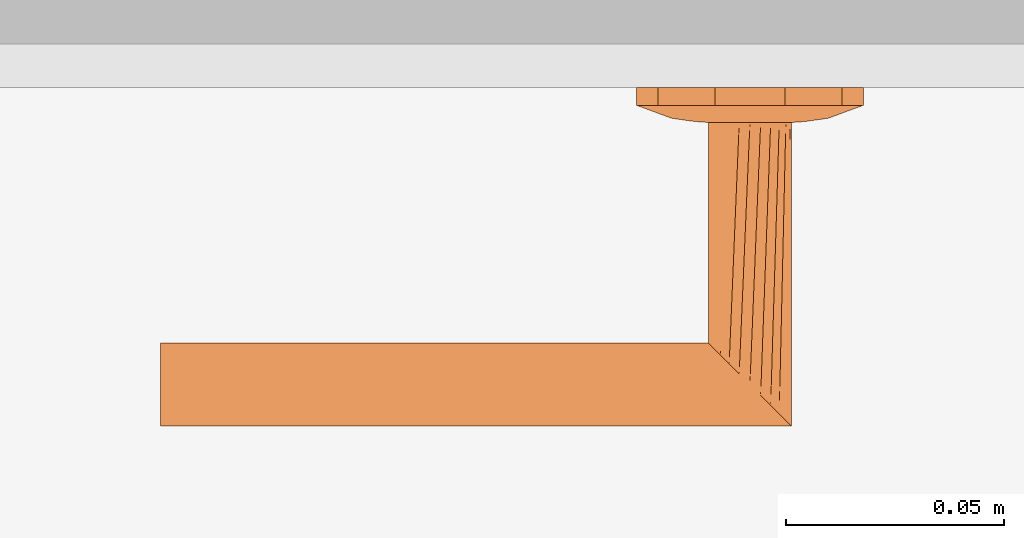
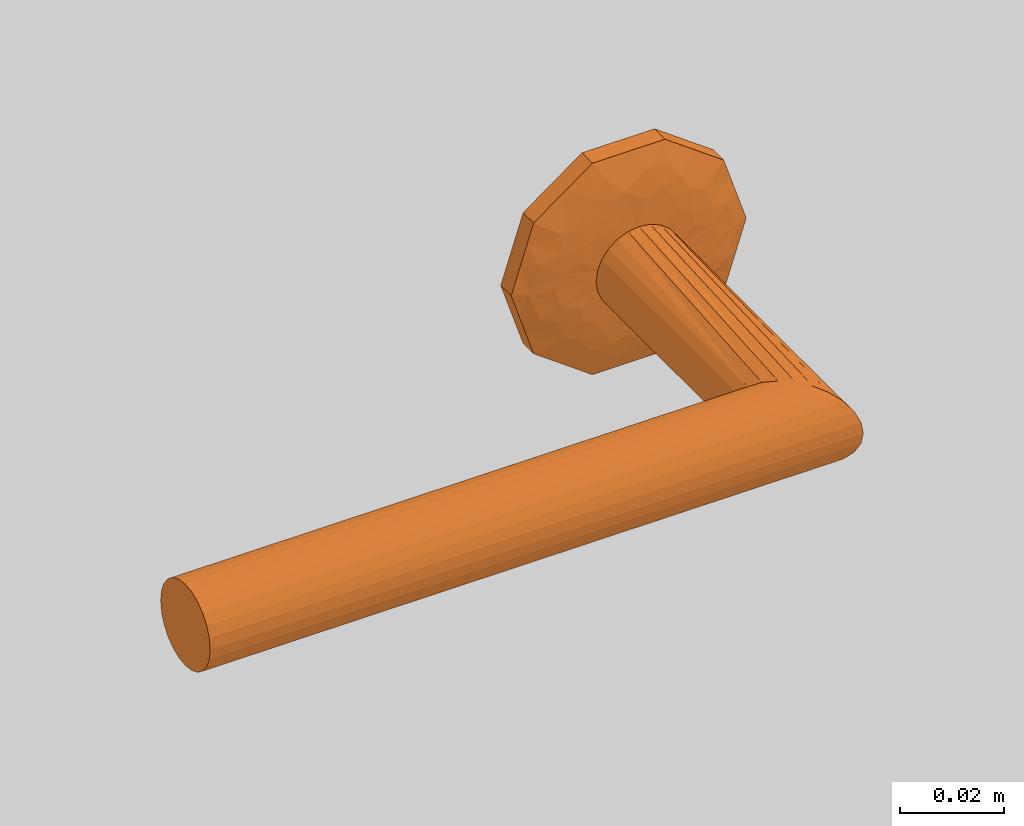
# One storey, part 120 of 125: 1 proxy.
"""IFC2X3 building model written with IfcOpenShell, lengths in millimetres."""

from ifc_helpers import new_model, entity, si_unit, converted_unit, direction, frame, origin, place, context, subcontext, project, spatial, faceted_brep, source, transform, mapped, material, type_object, type_shapes, element, save


model = new_model("IFC2X3")

# Units and contexts
model_context = context("Model", 3, precision=0.01, world=origin(), true_north=direction((6.123233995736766e-17, 1.0)))
plan_context = context("Plan", 3, precision=0.01, world=origin(), true_north=direction((6.123233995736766e-17, 1.0)))
body_context = subcontext(model_context, "Body", "Model", "MODEL_VIEW")
ifc_project = project(units=[si_unit("LENGTHUNIT", "METRE", prefix="MILLI"), converted_unit("PLANEANGLEUNIT", "DEGREE", entity("IfcPlaneAngleMeasure", 0.017453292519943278), si_unit("PLANEANGLEUNIT", "RADIAN"), dimensions=[0, 0, 0, 0, 0, 0, 0]), si_unit("AREAUNIT", "SQUARE_METRE")], contexts=[model_context, plan_context])

# Site, building, storey, space
site_placement = place(None, origin())
site = spatial("IfcSite", under=ifc_project, at=site_placement, Name="Default", CompositionType="ELEMENT")
building_placement = place(site_placement, origin())
building = spatial("IfcBuilding", under=site, at=building_placement, CompositionType="ELEMENT")
storey_placement = place(building_placement, frame((0.0, 0.0, 3125.0)))
storey = spatial("IfcBuildingStorey", under=building, at=storey_placement, Name="2K", CompositionType="ELEMENT", Elevation=3125.0)
space_placement = place(storey_placement, origin())
space = spatial("IfcSpace", under=storey, at=space_placement, Name="2-4.3", CompositionType="ELEMENT", InteriorOrExteriorSpace="INTERNAL")

# Proxy
ifc_material = material(Name="<Unnamed>")
building_element_proxy_type = type_object("IfcBuildingElementProxyType", Name="Door-handle_Lever_ABLOY_INOXI_3-19ss-002_RT:Default", PredefinedType="NOTDEFINED", material=ifc_material)
shared_shape = source(origin(), body_context, "Body", "Brep", [
    faceted_brep([(0.0, 0.0, 0.0), (21.034441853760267, -15.282416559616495, 0.0), (14.534441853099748, -20.00494299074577, 0.0), (8.034441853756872, -24.72746942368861, 0.0), (0.0, -24.72746942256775, 0.0), (23.51722092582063, -7.6412082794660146, 0.0), (26.0, 0.0, 0.0), (-8.034441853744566, -24.727469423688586, 0.0), (-14.534441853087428, -20.00494299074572, 0.0), (-21.03444185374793, -15.282416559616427, 0.0), (-23.517220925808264, -7.641208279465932, 0.0), (-26.0, 0.0, 0.0), (-23.517220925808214, 7.641208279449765, 0.0), (23.517220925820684, 7.641208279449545, 0.0), (21.034441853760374, 15.282416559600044, 0.0), (14.53444185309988, 20.00494299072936, 0.0), (8.034441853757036, 24.72746942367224, 0.0), (-21.034441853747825, 15.282416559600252, 0.0), (-14.53444185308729, 20.004942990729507, 0.0), (-8.0344418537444, 24.72746942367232, 0.0), (0.0, 24.72746942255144, 0.0), (0.0, 0.0, 8.0), (4.7500000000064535, -8.227241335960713, 8.0), (5.937500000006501, -6.170431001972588, 8.0), (7.125000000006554, -4.113620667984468, 8.0), (8.312500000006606, -2.0568103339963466, 8.0), (9.500000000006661, 0.0, 8.0), (8.312500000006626, 2.056810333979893, 8.0), (2.3750000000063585, -8.227241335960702, 8.0), (0.0, -8.227241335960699, 8.0), (-2.3749999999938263, -8.227241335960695, 8.0), (-4.749999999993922, -8.227241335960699, 8.0), (-5.937499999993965, -6.170431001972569, 8.0), (-7.124999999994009, -4.113620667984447, 8.0), (-8.312499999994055, -2.056810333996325, 8.0), (-9.499999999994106, 0.0, 8.0), (7.125000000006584, 4.113620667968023, 8.0), (5.937500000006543, 6.170431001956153, 8.0), (4.750000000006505, 8.227241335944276, 8.0), (2.3750000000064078, 8.22724133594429, 8.0), (-8.31249999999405, 2.0568103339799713, 8.0), (-7.12499999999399, 4.113620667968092, 8.0), (-5.9374999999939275, 6.170431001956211, 8.0), (-4.74999999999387, 8.227241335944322, 8.0), (0.0, 8.227241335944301, 8.0), (-2.374999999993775, 8.227241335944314, 8.0), (-22.488765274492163, -10.806469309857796, 4.030771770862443), (-16.663919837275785, -7.932665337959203, 6.877259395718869), (-20.643071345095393, -6.292822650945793, 5.929480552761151), (-12.50457926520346, -5.179566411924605, 7.774932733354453), (-16.764060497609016, -3.820257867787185, 7.1747985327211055), (-9.071726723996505, -10.311606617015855, 7.7520782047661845), (-11.963426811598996, -8.625290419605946, 7.618343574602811), (-11.979136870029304, -13.678312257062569, 6.945778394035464), (5.7585542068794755, -20.96753300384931, 5.871476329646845), (0.0, -24.72746942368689, 4.030771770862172), (8.03444185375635, -24.727469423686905, 4.030771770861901), (16.66391982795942, -7.932665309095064, 6.877259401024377), (22.488765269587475, -10.806469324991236, 4.03077177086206), (20.64307133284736, -6.29282258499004, 5.929480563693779), (14.534441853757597, -20.004942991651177, 4.030771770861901), (9.499431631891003, -18.64368355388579, 6.154325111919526), (-15.783149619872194, -11.991003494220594, 6.50080018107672), (-21.034441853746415, -15.282416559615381, 4.030771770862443), (-14.53444185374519, -20.00494299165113, 4.030771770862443), (-23.012042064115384, 0.0, 5.135401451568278), (-23.943088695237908, -6.330522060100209, 4.030771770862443), (11.96342678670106, -8.62529049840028, 7.618343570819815), (12.504579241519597, -5.179566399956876, 7.774932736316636), (16.764060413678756, -3.8202578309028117, 7.17479855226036), (15.783149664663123, -11.991003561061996, 6.50080015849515), (17.985351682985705, 0.0, 6.993737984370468), (23.012042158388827, 0.0, 5.135401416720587), (8.661516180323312, -10.478936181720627, 7.768126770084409), (-8.03444185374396, -24.727469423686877, 4.030771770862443), (-3.3573143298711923, -21.197247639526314, 5.971427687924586), (-9.941915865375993, -17.061976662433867, 6.522757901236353), (-5.973257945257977, -16.430139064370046, 7.110979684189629), (-7.711266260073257, -12.760344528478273, 7.594456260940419), (11.979136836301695, -13.678312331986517, 6.945778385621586), (7.511307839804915, -13.358932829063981, 7.529187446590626), (5.953298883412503, -16.50608604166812, 7.096344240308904), (-1.5654593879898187, -15.307443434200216, 7.519134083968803), (-7.784980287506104, -20.476295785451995, 5.812837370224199), (2.8135289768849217, -17.76392260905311, 6.993737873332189), (-17.98535168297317, 0.0, 6.993737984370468), (-26.0, 0.0, 4.030771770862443), (-23.51722092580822, -7.641208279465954, 4.030771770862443), (23.943088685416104, -6.33052209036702, 4.030771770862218), (24.308823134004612, -5.204907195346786, 4.030771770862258), (26.0, 0.0, 4.030771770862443), (21.03444185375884, -15.282416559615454, 4.030771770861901), (22.617646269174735, -10.40981439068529, 4.030771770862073), (22.488765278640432, 10.806469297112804, 4.030771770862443), (16.66391984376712, 7.932665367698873, 6.877259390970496), (20.643071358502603, 6.292822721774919, 5.929480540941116), (12.504579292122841, 5.179566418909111, 7.774932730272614), (16.764060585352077, 3.8202579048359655, 7.174798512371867), (9.07172672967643, 10.31160659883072, 7.752078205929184), (11.963426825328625, 8.62529034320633, 7.618343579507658), (11.979136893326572, 13.67831220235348, 6.9457784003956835), (-5.758554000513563, 20.96753314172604, 5.8714763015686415), (0.0, 24.72746942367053, 4.030771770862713), (-8.03444185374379, 24.72746942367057, 4.030771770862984), (-16.663919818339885, 7.932665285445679, 6.877259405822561), (-22.48876526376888, 10.806469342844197, 4.030771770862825), (-20.643071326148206, 6.2928225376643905, 5.929480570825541), (-14.534441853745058, 20.004942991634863, 4.030771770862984), (-9.499431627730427, 18.643683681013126, 6.154325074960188), (15.783149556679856, 11.991003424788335, 6.5008002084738), (21.03444185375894, 15.282416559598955, 4.030771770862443), (14.534441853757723, 20.004942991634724, 4.030771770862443), (23.943088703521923, 6.330522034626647, 4.030771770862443), (-11.96342675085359, 8.625290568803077, 7.618343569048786), (-12.504579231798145, 5.179566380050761, 7.77493273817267), (-16.764060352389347, 3.820257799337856, 7.174798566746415), (-15.78314967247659, 11.991003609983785, 6.500800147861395), (-8.661516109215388, 10.478936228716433, 7.768126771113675), (8.034441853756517, 24.727469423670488, 4.030771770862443), (3.3573144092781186, 21.197247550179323, 5.971427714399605), (9.941915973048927, 17.061976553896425, 6.522757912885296), (5.9732581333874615, 16.430139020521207, 7.110979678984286), (7.711266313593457, 12.760344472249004, 7.5944562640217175), (-11.979136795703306, 13.678312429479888, 6.945778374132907), (-7.511307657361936, 13.358932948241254, 7.5291874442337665), (-5.9532988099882, 16.50608628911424, 7.096344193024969), (1.5654596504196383, 15.3074431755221, 7.519134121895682), (7.784980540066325, 20.476295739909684, 5.812837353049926), (-2.81352881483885, 17.76392263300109, 6.993737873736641), (23.51722092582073, 7.6412082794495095, 4.030771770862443), (-23.94308867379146, 6.330522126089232, 4.030771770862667), (-24.308823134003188, 5.20490719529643, 4.030771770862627), (-21.034441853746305, 15.282416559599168, 4.030771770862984), (-22.617646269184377, 10.409814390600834, 4.0307717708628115)], [[[0, 1, 2]], [[0, 2, 3]], [[0, 3, 4]], [[0, 5, 1]], [[0, 6, 5]], [[0, 4, 7]], [[0, 7, 8]], [[0, 8, 9]], [[0, 9, 10]], [[0, 10, 11]], [[0, 11, 12]], [[0, 13, 6]], [[0, 14, 13]], [[0, 15, 14]], [[0, 16, 15]], [[0, 12, 17]], [[0, 17, 18]], [[0, 18, 19]], [[0, 19, 20]], [[0, 20, 16]], [[21, 22, 23]], [[21, 23, 24]], [[21, 24, 25]], [[21, 25, 26]], [[21, 26, 27]], [[21, 28, 22]], [[21, 29, 28]], [[21, 30, 29]], [[21, 31, 30]], [[21, 32, 31]], [[21, 33, 32]], [[21, 34, 33]], [[21, 35, 34]], [[21, 27, 36]], [[21, 36, 37]], [[21, 37, 38]], [[21, 38, 39]], [[21, 40, 35]], [[21, 41, 40]], [[21, 42, 41]], [[21, 43, 42]], [[21, 39, 44]], [[21, 44, 45]], [[21, 45, 43]], [[46, 47, 48]], [[47, 49, 50]], [[49, 33, 34]], [[51, 52, 53]], [[49, 52, 33]], [[48, 47, 50]], [[54, 55, 56]], [[57, 58, 59]], [[56, 60, 61]], [[62, 63, 64]], [[65, 66, 48]], [[67, 57, 68]], [[68, 69, 25]], [[57, 67, 70]], [[69, 26, 25]], [[62, 53, 52]], [[71, 69, 72]], [[67, 23, 73]], [[74, 55, 75]], [[76, 77, 78]], [[79, 60, 70]], [[69, 59, 72]], [[80, 81, 61]], [[77, 30, 78]], [[82, 30, 77]], [[28, 80, 22]], [[77, 83, 75]], [[75, 82, 77]], [[55, 84, 75]], [[85, 50, 35]], [[24, 68, 25]], [[82, 84, 29]], [[84, 82, 75]], [[31, 78, 30]], [[82, 29, 30]], [[34, 35, 50]], [[52, 49, 47]], [[62, 52, 47]], [[34, 50, 49]], [[53, 78, 51]], [[32, 33, 52]], [[85, 65, 50]], [[66, 65, 86]], [[67, 68, 24]], [[77, 76, 83]], [[65, 48, 50]], [[63, 62, 46]], [[48, 66, 87, 46]], [[62, 47, 46]], [[69, 68, 57]], [[80, 73, 22]], [[70, 67, 79]], [[67, 24, 23]], [[72, 88, 89, 90]], [[69, 71, 26]], [[59, 69, 57]], [[61, 60, 79]], [[62, 64, 53]], [[91, 58, 70]], [[72, 59, 88]], [[57, 70, 58]], [[59, 58, 92]], [[80, 61, 79]], [[91, 70, 60]], [[61, 81, 54]], [[73, 80, 79]], [[28, 84, 81]], [[67, 73, 79]], [[29, 84, 28]], [[22, 73, 23]], [[51, 31, 32]], [[76, 78, 53]], [[53, 64, 76]], [[83, 64, 74]], [[64, 83, 76]], [[75, 83, 74]], [[31, 51, 78]], [[52, 51, 32]], [[28, 81, 80]], [[54, 81, 84]], [[55, 54, 84]], [[61, 54, 56]], [[93, 94, 95]], [[94, 96, 97]], [[96, 36, 27]], [[98, 99, 100]], [[96, 99, 36]], [[95, 94, 97]], [[101, 102, 103]], [[104, 105, 106]], [[103, 107, 108]], [[109, 110, 111]], [[72, 112, 95]], [[113, 104, 114]], [[114, 115, 40]], [[104, 113, 116]], [[115, 35, 40]], [[109, 100, 99]], [[85, 115, 65]], [[113, 42, 117]], [[118, 102, 119]], [[120, 121, 122]], [[123, 107, 116]], [[115, 106, 65]], [[124, 125, 108]], [[121, 39, 122]], [[126, 39, 121]], [[45, 124, 43]], [[121, 127, 119]], [[119, 126, 121]], [[102, 128, 119]], [[71, 97, 26]], [[41, 114, 40]], [[126, 128, 44]], [[128, 126, 119]], [[38, 122, 39]], [[126, 44, 39]], [[27, 26, 97]], [[99, 96, 94]], [[109, 99, 94]], [[27, 97, 96]], [[100, 122, 98]], [[37, 36, 99]], [[71, 72, 97]], [[112, 72, 90]], [[113, 114, 41]], [[121, 120, 127]], [[72, 95, 97]], [[110, 109, 93]], [[95, 112, 129, 93]], [[109, 94, 93]], [[115, 114, 104]], [[124, 117, 43]], [[116, 113, 123]], [[113, 41, 42]], [[65, 130, 131, 86]], [[115, 85, 35]], [[106, 115, 104]], [[108, 107, 123]], [[109, 111, 100]], [[132, 105, 116]], [[65, 106, 130]], [[104, 116, 105]], [[106, 105, 133]], [[124, 108, 123]], [[132, 116, 107]], [[108, 125, 101]], [[117, 124, 123]], [[45, 128, 125]], [[113, 117, 123]], [[44, 128, 45]], [[43, 117, 42]], [[98, 38, 37]], [[120, 122, 100]], [[100, 111, 120]], [[127, 111, 118]], [[111, 127, 120]], [[119, 127, 118]], [[38, 98, 122]], [[99, 98, 37]], [[45, 125, 124]], [[101, 125, 128]], [[102, 101, 128]], [[108, 101, 103]], [[7, 74, 64, 63, 9, 8]], [[10, 9, 63, 46, 87, 66, 86, 11]], [[6, 90, 89, 88, 92, 1, 5]], [[1, 58, 91]], [[74, 7, 4, 3, 56, 55]], [[60, 56, 3, 2, 1, 91]], [[1, 92, 58]], [[14, 110, 93, 129, 112, 90, 6, 13]], [[111, 110, 14, 15, 16, 118]], [[11, 86, 131, 130, 133, 17, 12]], [[17, 105, 132]], [[118, 16, 20, 19, 103, 102]], [[107, 103, 19, 18, 17, 132]], [[17, 133, 105]], [[59, 92, 88]], [[106, 133, 130]]]),
    faceted_brep([(4.7499999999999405, -8.22724133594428, 8.0), (2.4587809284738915, -9.176295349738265, 8.0), (0.0, -9.499999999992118, 8.0), (-2.4587809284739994, -9.176295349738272, 8.0), (-4.7500000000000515, -8.227241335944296, 8.0), (-6.717514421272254, -6.717514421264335, 8.0), (-8.227241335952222, -4.74999999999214, 8.0), (-9.176295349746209, -2.4587809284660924, 8.0), (-9.500000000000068, 0.0, 8.0), (-9.176295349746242, 2.458780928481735, 8.0), (-8.227241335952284, 4.750000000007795, 8.0), (-6.717514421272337, 6.717514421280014, 8.0), (-4.750000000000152, 8.227241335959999, 8.0), (-2.4587809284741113, 9.176295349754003, 8.0), (0.0, 9.500000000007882, 8.0), (2.4587809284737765, 9.176295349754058, 8.0), (4.7499999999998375, 8.227241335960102, 8.0), (6.717514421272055, 6.717514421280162, 8.0), (8.22724133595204, 4.75000000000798, 8.0), (9.17629534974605, 2.458780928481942, 8.0), (9.499999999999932, 0.0, 8.0), (9.17629534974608, -2.458780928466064, 8.0), (8.227241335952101, -4.749999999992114, 8.0), (6.717514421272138, -6.7175144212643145, 8.0), (-8.227241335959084, 4.7499999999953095, 59.772758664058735), (-6.717514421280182, 6.7175144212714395, 61.282485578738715), (-9.176295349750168, 2.458780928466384, 58.82370465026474), (-4.750000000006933, 8.227241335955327, 63.25000000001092), (-2.4587809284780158, 9.176295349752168, 65.54121907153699), (-9.500000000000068, 0.0, 58.50000000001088), (0.0, 9.50000000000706, 68.0), (4.750000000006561, 8.227241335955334, 72.75000000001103), (2.4587809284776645, 9.17629534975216, 70.45878092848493), (6.717514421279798, 6.7175144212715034, 74.71751442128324), (8.22724133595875, 4.749999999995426, 76.22724133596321), (9.17629534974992, 2.458780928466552, 77.17629534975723), (9.499999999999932, 0.0, 77.50000000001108), (9.176295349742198, -2.4587809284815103, 77.1762953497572), (8.227241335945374, -4.750000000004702, 76.22724133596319), (6.7175144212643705, -6.717514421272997, 74.7175144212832), (4.749999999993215, -8.227241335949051, 72.75000000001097), (2.4587809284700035, -9.17629534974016, 70.45878092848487), (0.0, -9.49999999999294, 68.0), (-2.4587809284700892, -9.176295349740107, 65.54121907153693), (-4.749999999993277, -8.227241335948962, 63.250000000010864), (-6.717514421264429, -6.717514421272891, 61.282485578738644), (-9.176295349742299, -2.458780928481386, 58.8237046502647), (-8.227241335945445, -4.750000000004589, 59.77275866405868), (-135.0, -9.176295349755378, 70.4587809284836), (-135.0, -8.227241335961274, 72.75000000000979), (-135.0, -6.717514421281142, 74.71751442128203), (-135.0, -4.750000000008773, 76.22724133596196), (-135.0, -2.4587809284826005, 77.17629534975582), (-135.0, 0.0, 77.5000000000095), (-135.0, 2.4587809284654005, 77.17629534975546), (-135.0, 4.749999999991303, 76.22724133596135), (-135.0, 6.717514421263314, 74.71751442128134), (-135.0, 8.227241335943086, 72.75000000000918), (-135.0, 9.17629534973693, 70.45878092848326), (-135.0, 9.499999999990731, 68.0), (-135.0, 9.17629534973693, 65.54121907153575), (-135.0, 8.227241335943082, 63.250000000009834), (-135.0, 6.717514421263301, 61.28248557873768), (-135.0, 4.749999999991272, 59.772758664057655), (-135.0, 2.458780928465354, 58.823704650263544), (-135.0, 0.0, 58.50000000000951), (-135.0, -2.458780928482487, 58.82370465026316), (-135.0, -4.750000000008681, 59.772758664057), (-135.0, -6.7175144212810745, 61.28248557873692), (-135.0, -8.227241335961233, 63.25000000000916), (-135.0, -9.176295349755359, 65.54121907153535), (-135.0, -9.500000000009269, 68.0)], [[[0, 1, 2, 3, 4, 5, 6, 7, 8, 9, 10, 11, 12, 13, 14, 15, 16, 17, 18, 19, 20, 21, 22, 23]], [[24, 25, 11, 10]], [[26, 24, 10, 9]], [[14, 27, 28]], [[13, 27, 14]], [[25, 27, 13]], [[29, 26, 9, 8]], [[12, 11, 25]], [[25, 13, 12]], [[28, 30, 15]], [[31, 17, 32]], [[33, 18, 31]], [[19, 34, 35]], [[33, 34, 19]], [[20, 19, 35, 36]], [[16, 15, 30]], [[14, 28, 15]], [[19, 18, 33]], [[17, 31, 18]], [[17, 16, 32]], [[30, 32, 16]], [[20, 36, 37, 21]], [[38, 21, 37]], [[22, 39, 40]], [[38, 39, 21]], [[23, 40, 41]], [[39, 22, 21]], [[1, 42, 43]], [[42, 1, 0]], [[23, 41, 0]], [[23, 22, 40]], [[41, 42, 0]], [[44, 45, 3]], [[43, 44, 2]], [[46, 29, 8, 7]], [[47, 46, 7, 6]], [[45, 47, 6, 5]], [[45, 4, 3]], [[3, 2, 44]], [[5, 4, 45]], [[43, 2, 1]], [[48, 49, 50, 51, 52, 53, 54, 55, 56, 57, 58, 59, 60, 61, 62, 63, 64, 65, 66, 67, 68, 69, 70, 71]], [[64, 63, 24, 26]], [[65, 64, 26, 29]], [[61, 60, 28, 27]], [[62, 61, 27, 25]], [[63, 62, 25, 24]], [[59, 30, 28, 60]], [[57, 56, 33, 31]], [[58, 57, 31, 32]], [[54, 53, 36, 35]], [[55, 54, 35, 34]], [[56, 55, 34, 33]], [[32, 30, 59, 58]], [[52, 51, 38, 37]], [[53, 52, 37, 36]], [[49, 48, 41, 40]], [[50, 49, 40, 39]], [[51, 50, 39, 38]], [[42, 41, 48, 71]], [[69, 68, 45, 44]], [[70, 69, 44, 43]], [[66, 65, 29, 46]], [[67, 66, 46, 47]], [[68, 67, 47, 45]], [[42, 71, 70, 43]]]),
])
type_shapes(building_element_proxy_type, [shared_shape])
proxy_placement = place(space_placement, frame((13098.996767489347, 5217.999959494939, 1000.0), z_axis=(0.0, -1.0, 0.0), x_axis=(1.0, 0.0, 0.0)))
element("IfcBuildingElementProxy", 1, at=proxy_placement, inside=space, type_object=building_element_proxy_type, material=ifc_material, Name="Door-handle_Lever_ABLOY_INOXI_3-19ss-002_RT:Default", ObjectType="Door-handle_Lever_ABLOY_INOXI_3-19ss-002_RT:Default", context=body_context, shape_type="MappedRepresentation", body=[
    mapped(shared_shape, transform((0.0, 0.0, 0.0), scale=1.0)),
])

save(model, "model.ifc")
